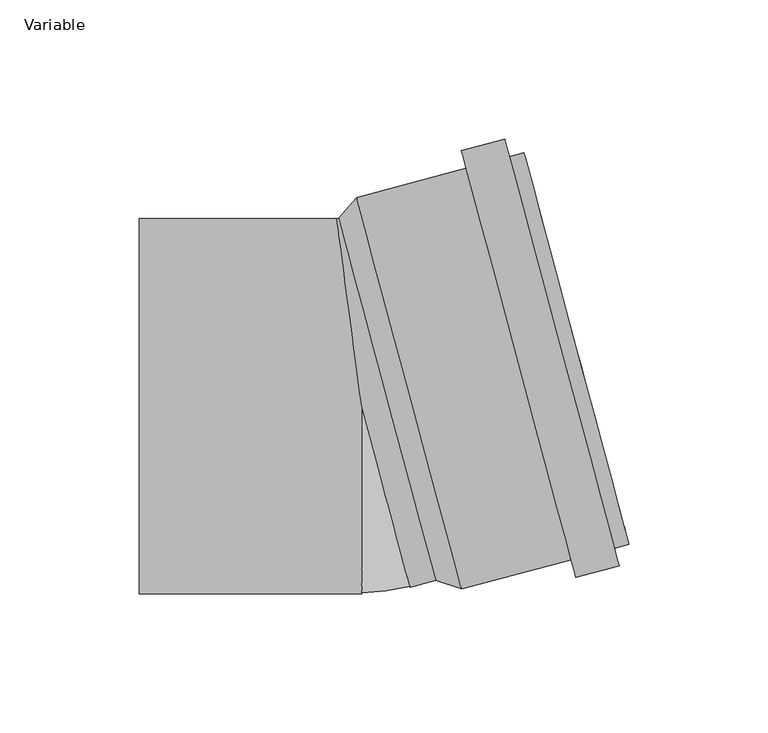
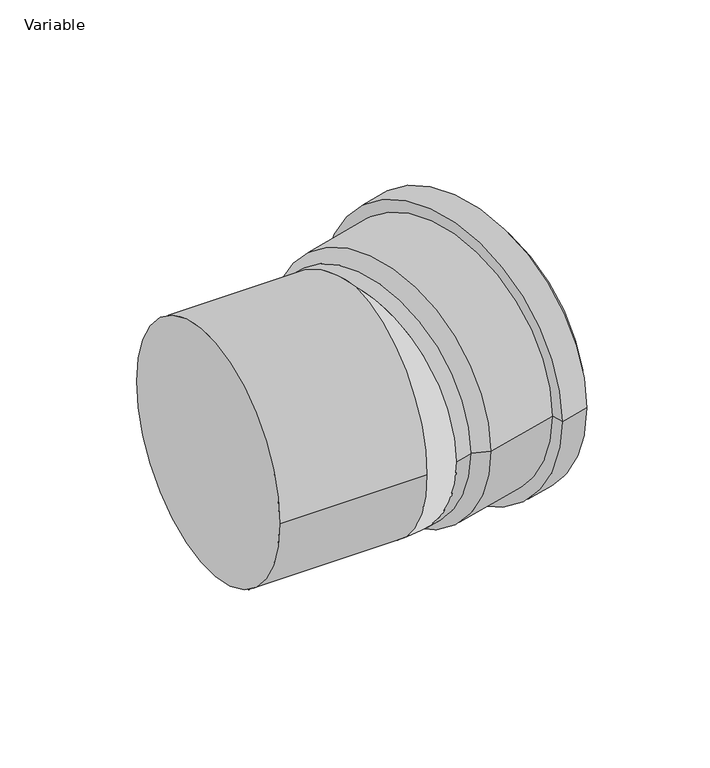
"""IFC4 building model written with IfcOpenShell, lengths in millimetres: pipe fitting geometry, AliaxisFR_Friaphon_ElbowMF_FR : Variable."""

from ifc_helpers import new_model, si_unit, point, frame, origin, place, context, project, spatial, polyline, circle_curve, ellipse_curve, trimmed, source, transform, mapped, element, save
from ifc_brep_helpers import plane_surface, cylinder_surface, revolved_surface, advanced_brep


def variable_8b78ec76(model_context):
    return source(origin(), model_context, "Body", "AdvancedBrep", [
        advanced_brep(
        [(96.1419745, -49.7104691, 0.0), (58.4061577, 91.1215163, 0.0), (59.8037806, 85.9055169, 0.0), (94.7443516, -44.4944697, 0.0), (77.0827749, -61.6501891, 0.0), (35.9305468, 91.9320173, 0.0), (51.4819526, 96.099004, 0.0), (92.6341807, -57.4832024, 0.0), (75.3745692, -55.2750786, 0.0), (37.6387524, 85.5569069, 0.0), (35.9647955, -65.8348956, 0.0), (-1.7710213, 74.9970898, 0.0), (-8.1973976, 67.6846561, 0.0), (26.7431735, -62.7153304, 0.0), (90.925975, -51.108092, 0.0), (53.1901583, 89.7238935, 0.0)],
        [
            (0, 1, circle_curve(frame((77.2740661, 20.7055236, 0.0), z_axis=(0.9659258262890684, 0.25881904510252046, 0.0), x_axis=(-0.25881904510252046, 0.9659258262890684, 0.0)), 72.9)),
            (1, 2),
            (2, 3, circle_curve(frame((77.2740661, 20.7055236, 0.0), z_axis=(-0.9659258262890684, -0.25881904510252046, 0.0), x_axis=(-0.25881904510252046, 0.9659258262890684, 0.0)), 67.5)),
            (3, 0),
            (1, 0, circle_curve(frame((77.2740661, 20.7055236, 0.0), z_axis=(0.9659258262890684, 0.25881904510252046, 0.0), x_axis=(-0.25881904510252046, 0.9659258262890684, 0.0)), 72.9)),
            (3, 2, circle_curve(frame((77.2740661, 20.7055236, 0.0), z_axis=(-0.9659258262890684, -0.25881904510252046, 0.0), x_axis=(-0.25881904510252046, 0.9659258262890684, 0.0)), 67.5)),
            (4, 5, circle_curve(frame((56.5066608, 15.1409141, 0.0), z_axis=(0.9659258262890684, 0.25881904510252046, 0.0), x_axis=(-0.25881904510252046, 0.9659258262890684, 0.0)), 79.5)),
            (5, 6),
            (6, 7, circle_curve(frame((72.0580666, 19.3079008, 0.0), z_axis=(-0.9659258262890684, -0.25881904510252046, 0.0), x_axis=(-0.25881904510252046, 0.9659258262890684, 0.0)), 79.5)),
            (7, 4),
            (5, 4, circle_curve(frame((56.5066608, 15.1409141, 0.0), z_axis=(0.9659258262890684, 0.25881904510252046, 0.0), x_axis=(-0.25881904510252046, 0.9659258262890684, 0.0)), 79.5)),
            (7, 6, circle_curve(frame((72.0580666, 19.3079008, 0.0), z_axis=(-0.9659258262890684, -0.25881904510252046, 0.0), x_axis=(-0.25881904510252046, 0.9659258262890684, 0.0)), 79.5)),
            (8, 9, circle_curve(frame((56.5066608, 15.1409141, 0.0), z_axis=(0.9659258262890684, 0.25881904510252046, 0.0), x_axis=(-0.25881904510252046, 0.9659258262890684, 0.0)), 72.9)),
            (9, 5),
            (4, 8),
            (9, 8, circle_curve(frame((56.5066608, 15.1409141, 0.0), z_axis=(0.9659258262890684, 0.25881904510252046, 0.0), x_axis=(-0.25881904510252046, 0.9659258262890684, 0.0)), 72.9)),
            (10, 11, circle_curve(frame((17.0968871, 4.5810971, 0.0), z_axis=(0.9659258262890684, 0.25881904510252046, 0.0), x_axis=(-0.25881904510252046, 0.9659258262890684, 0.0)), 72.9)),
            (11, 9),
            (8, 10),
            (11, 10, circle_curve(frame((17.0968871, 4.5810971, 0.0), z_axis=(0.9659258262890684, 0.25881904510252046, 0.0), x_axis=(-0.25881904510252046, 0.9659258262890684, 0.0)), 72.9)),
            (2, 12),
            (12, 13, circle_curve(frame((9.2728879, 2.4846628, 0.0), z_axis=(-0.9659258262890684, -0.25881904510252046, 0.0), x_axis=(-0.25881904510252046, 0.9659258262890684, 0.0)), 67.5)),
            (13, 3),
            (13, 12, circle_curve(frame((9.2728879, 2.4846628, 0.0), z_axis=(-0.9659258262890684, -0.25881904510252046, 0.0), x_axis=(-0.25881904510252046, 0.9659258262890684, 0.0)), 67.5)),
            (12, 11),
            (10, 13),
            (14, 15, circle_curve(frame((72.0580666, 19.3079008, 0.0), z_axis=(0.9659258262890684, 0.25881904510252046, 0.0), x_axis=(-0.25881904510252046, 0.9659258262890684, 0.0)), 72.9)),
            (15, 1),
            (0, 14),
            (15, 14, circle_curve(frame((72.0580666, 19.3079008, 0.0), z_axis=(0.9659258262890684, 0.25881904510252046, 0.0), x_axis=(-0.25881904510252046, 0.9659258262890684, 0.0)), 72.9)),
            (6, 15),
            (14, 7),
        ],
        [
            plane_surface(frame((77.2740661, 20.7055236, 0.0), z_axis=(0.9659258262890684, 0.25881904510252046, 0.0), x_axis=(-0.25881904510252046, 0.9659258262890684, 0.0))),
            cylinder_surface(frame((9.2728879, 2.4846628, 0.0), z_axis=(-0.9659258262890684, -0.25881904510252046, 0.0), x_axis=(-0.25881904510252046, 0.9659258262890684, 0.0)), 79.5),
            plane_surface(frame((56.5066608, 15.1409141, 0.0), z_axis=(-0.9659258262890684, -0.25881904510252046, 0.0), x_axis=(-0.25881904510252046, 0.9659258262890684, 0.0))),
            cylinder_surface(frame((9.2728879, 2.4846628, 0.0), z_axis=(-0.9659258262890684, -0.25881904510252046, 0.0), x_axis=(-0.25881904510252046, 0.9659258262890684, 0.0)), 72.9),
            revolved_surface(polyline([(-8.197397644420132, 67.68465607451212, 0.0), (59.80378060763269, 85.90551687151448, 0.0)]), (9.2728879, 2.4846628, 0.0), (-0.9659258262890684, -0.25881904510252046, 0.0)),
            revolved_surface(polyline([(-1.7710213, 74.9970898, 0.0), (-8.1973976, 67.6846561, 0.0)]), (9.2728879, 2.4846628, 0.0), (-0.9659258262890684, -0.25881904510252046, 0.0)),
            plane_surface(frame((72.0580666, 19.3079008, 0.0), z_axis=(0.9659258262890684, 0.25881904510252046, 0.0), x_axis=(-0.25881904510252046, 0.9659258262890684, 0.0))),
        ],
        [
            (0, [[1, 2, 3, 4]]),
            (0, [[5, -4, 6, -2]]),
            (1, [[7, 8, 9, 10]]),
            (1, [[11, -10, 12, -8]]),
            (2, [[13, 14, -7, 15]]),
            (2, [[16, -15, -11, -14]]),
            (3, [[17, 18, -13, 19]]),
            (3, [[20, -19, -16, -18]]),
            (4, [[-3, 21, 22, 23]]),
            (4, [[-6, -23, 24, -21]]),
            (5, [[-22, 25, -17, 26]]),
            (5, [[-24, -26, -20, -25]]),
            (3, [[27, 28, -1, 29]]),
            (3, [[30, -29, -5, -28]]),
            (6, [[-9, 31, -27, 32]]),
            (6, [[-12, -32, -30, -31]]),
        ],
    ),
        advanced_brep(
        [(-2.9813982, 69.082279, 0.0), (31.9591729, -61.3177076, 0.0), (17.4702855, -65.1999933, 0.0), (-8.8865436, 67.5, 0.0), (0.0, 0.0, 67.5), (0.0, 0.0, -67.5), (-80.0, -67.5, 0.0), (-80.0, 67.5, 0.0), (0.0, -67.5, 0.0)],
        [
            (0, 1, circle_curve(frame((14.4888874, 3.8822857, 0.0), z_axis=(0.9659258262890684, 0.2588190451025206, 0.0), x_axis=(-0.2588190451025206, 0.9659258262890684, 0.0)), 67.5)),
            (1, 0, circle_curve(frame((14.4888874, 3.8822857, 0.0), z_axis=(0.9659258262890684, 0.2588190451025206, 0.0), x_axis=(-0.2588190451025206, 0.9659258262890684, 0.0)), 67.5)),
            (2, 1),
            (0, 3),
            (3, 4, ellipse_curve(frame((0.0, 0.0, 0.0), z_axis=(0.9914448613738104, 0.1305261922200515, 0.0), x_axis=(0.13052619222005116, -0.9914448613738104, 0.0)), 68.0824548, 67.5)),
            (4, 2, circle_curve(frame((0.0, 0.0, 0.0), z_axis=(0.9659258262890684, 0.2588190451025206, 0.0), x_axis=(-0.2588190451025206, 0.9659258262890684, 0.0)), 67.5)),
            (2, 5, circle_curve(frame((0.0, 0.0, 0.0), z_axis=(0.9659258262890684, 0.2588190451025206, 0.0), x_axis=(-0.2588190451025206, 0.9659258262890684, 0.0)), 67.5)),
            (5, 3, ellipse_curve(frame((0.0, 0.0, 0.0), z_axis=(0.9914448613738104, 0.1305261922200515, 0.0), x_axis=(0.13052619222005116, -0.9914448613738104, 0.0)), 68.0824548, 67.5)),
            (6, 7, circle_curve(frame((-80.0, 0.0, 0.0), z_axis=(-1.0, 0.0, 0.0), x_axis=(0.0, 1.0, 0.0)), 67.5)),
            (7, 6, circle_curve(frame((-80.0, 0.0, 0.0), z_axis=(-1.0, 0.0, 0.0), x_axis=(0.0, 1.0, 0.0)), 67.5)),
            (6, 8),
            (8, 4, circle_curve(frame((0.0, 0.0, 0.0), z_axis=(-1.0, 0.0, 0.0), x_axis=(0.0, 1.0, 0.0)), 67.5)),
            (3, 7),
            (5, 8, circle_curve(frame((0.0, 0.0, 0.0), z_axis=(-1.0, 0.0, 0.0), x_axis=(0.0, 1.0, 0.0)), 67.5)),
        ],
        [
            plane_surface(frame((14.4888874, 3.8822857, 0.0), z_axis=(0.9659258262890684, 0.25881904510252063, 0.0), x_axis=(0.0, 0.0, 1.0))),
            cylinder_surface(frame((0.0, 0.0, 0.0), z_axis=(-0.9659258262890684, -0.2588190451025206, 0.0), x_axis=(-0.2588190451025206, 0.9659258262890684, 0.0)), 67.5),
            plane_surface(frame((-80.0, 0.0, 0.0), z_axis=(-1.0, 0.0, 0.0), x_axis=(0.0, 0.0, 1.0))),
            cylinder_surface(frame((-80.0, 0.0, 0.0), z_axis=(-1.0, 0.0, 0.0), x_axis=(0.0, 1.0, 0.0)), 67.5),
            revolved_surface(trimmed(ellipse_curve(frame((0.0, 0.0, 0.0), z_axis=(0.9659258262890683, 0.2588190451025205, 0.0), x_axis=(-0.2588190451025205, 0.9659258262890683, 0.0)), 67.5, 67.5), [point((0.0, 0.0, 67.5))], [point((0.0, 0.0, -67.5))], True, "CARTESIAN"), (0.0, 0.0, 67.5), (0.0, 0.0, -1.0)),
        ],
        [
            (0, [[1, 2]]),
            (1, [[3, -1, 4, 5, 6]]),
            (1, [[-2, -3, 7, 8, -4]]),
            (2, [[9, 10]]),
            (3, [[-9, 11, 12, -5, 13]]),
            (3, [[-10, -13, -8, 14, -11]]),
            (4, [[-12, -14, -7, -6]]),
        ],
    ),
    ])


if __name__ == "__main__":
    model = new_model("IFC4")
    model_context = context("Model", 3, world=origin())
    ifc_project = project(units=[si_unit("LENGTHUNIT", "METRE", prefix="MILLI")], contexts=[model_context])
    site = spatial("IfcSite", under=ifc_project)
    building = spatial("IfcBuilding", under=site)
    placement = place(None, origin())
    variable_shape = variable_8b78ec76(model_context)
    element("IfcPipeFitting", 1, ObjectType="AliaxisFR_Friaphon_ElbowMF_FR : Variable", at=placement, inside=building, context=model_context, shape_type="MappedRepresentation", body=[
        mapped(variable_shape, transform((0.0, 0.0, 0.0), x_axis=(1.0, 0.0, 0.0), y_axis=(0.0, 1.0, 0.0), z_axis=(0.0, 0.0, 1.0))),
    ])
    save(model, "model.ifc")
